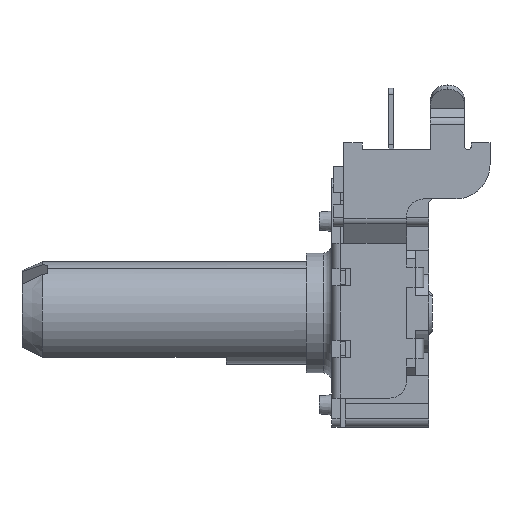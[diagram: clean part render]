
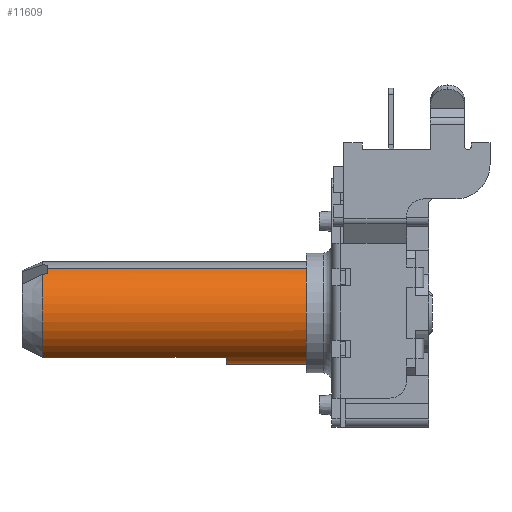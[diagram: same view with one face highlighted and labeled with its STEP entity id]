
A CAD part, left-side view. The second image highlights one B-rep face of the part: STEP entity #11609.
In plain terms, the highlighted cylindrical face has radius 3 mm (diameter 6 mm), a partial arc.
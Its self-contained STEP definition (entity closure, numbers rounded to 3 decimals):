
#202 = ORIENTED_EDGE ( 'NONE', *, *, #12828, .F. ) ;
#394 = CARTESIAN_POINT ( 'NONE',  ( 0., 2.5, -3. ) ) ;
#443 = CARTESIAN_POINT ( 'NONE',  ( 0., 20.1, 3. ) ) ;
#472 = LINE ( 'NONE', #10326, #9423 ) ;
#497 = EDGE_CURVE ( 'NONE', #10487, #8696, #6049, .T. ) ;
#498 = DIRECTION ( 'NONE',  ( 0., 1., 0. ) ) ;
#767 = CARTESIAN_POINT ( 'NONE',  ( 0., 19.8, -3. ) ) ;
#1163 = CIRCLE ( 'NONE', #10137, 3. ) ;
#1617 = EDGE_CURVE ( 'NONE', #6973, #5762, #472, .T. ) ;
#1688 = VECTOR ( 'NONE', #12697, 1000. ) ;
#1877 = LINE ( 'NONE', #443, #1688 ) ;
#2296 = CARTESIAN_POINT ( 'NONE',  ( 0.55, 20.1, -2.949 ) ) ;
#2437 = DIRECTION ( 'NONE',  ( 0., -1., 0. ) ) ;
#2491 = DIRECTION ( 'NONE',  ( 0., 0., -1. ) ) ;
#2692 = CARTESIAN_POINT ( 'NONE',  ( 0.5, 19.8, -2.958 ) ) ;
#3040 = CARTESIAN_POINT ( 'NONE',  ( 0., 20.1, 0. ) ) ;
#3432 = EDGE_CURVE ( 'NONE', #6537, #8696, #1163, .T. ) ;
#3558 = ORIENTED_EDGE ( 'NONE', *, *, #497, .F. ) ;
#4029 = AXIS2_PLACEMENT_3D ( 'NONE', #5467, #498, #11638 ) ;
#4149 = DIRECTION ( 'NONE',  ( 0., 1., 0. ) ) ;
#4308 = DIRECTION ( 'NONE',  ( 0., 1., 0. ) ) ;
#4378 = CARTESIAN_POINT ( 'NONE',  ( 0., 19.8, 0. ) ) ;
#4663 = CARTESIAN_POINT ( 'NONE',  ( 0.5, 19.8, -2.958 ) ) ;
#4695 = DIRECTION ( 'NONE',  ( 0., 1., 0. ) ) ;
#5401 = EDGE_CURVE ( 'NONE', #13343, #7348, #6550, .T. ) ;
#5467 = CARTESIAN_POINT ( 'NONE',  ( 0., 9.3, 0. ) ) ;
#5568 = EDGE_CURVE ( 'NONE', #9754, #6537, #1877, .T. ) ;
#5762 = VERTEX_POINT ( 'NONE', #15475 ) ;
#6049 = LINE ( 'NONE', #9659, #7347 ) ;
#6516 = CARTESIAN_POINT ( 'NONE',  ( 2.598, 9.3, 1.5 ) ) ;
#6537 = VERTEX_POINT ( 'NONE', #9594 ) ;
#6550 =( BOUNDED_CURVE ( )  B_SPLINE_CURVE ( 3, ( #10151, #9997, #13662, #2692 ),
 .UNSPECIFIED., .F., .F. ) 
 B_SPLINE_CURVE_WITH_KNOTS ( ( 4, 4 ),
 ( 4.528, 4.545 ),
 .UNSPECIFIED. ) 
 CURVE ( )  GEOMETRIC_REPRESENTATION_ITEM ( )  RATIONAL_B_SPLINE_CURVE ( ( 1., 1., 1., 1. ) ) 
 REPRESENTATION_ITEM ( '' )  );
#6973 = VERTEX_POINT ( 'NONE', #6516 ) ;
#7183 = EDGE_CURVE ( 'NONE', #9754, #6973, #15014, .T. ) ;
#7347 = VECTOR ( 'NONE', #2437, 1000. ) ;
#7348 = VERTEX_POINT ( 'NONE', #4663 ) ;
#8285 = AXIS2_PLACEMENT_3D ( 'NONE', #13224, #9782, #2491 ) ;
#8696 = VERTEX_POINT ( 'NONE', #394 ) ;
#8771 = CIRCLE ( 'NONE', #11335, 3. ) ;
#9423 = VECTOR ( 'NONE', #4149, 1000. ) ;
#9594 = CARTESIAN_POINT ( 'NONE',  ( 0., 2.5, 3. ) ) ;
#9659 = CARTESIAN_POINT ( 'NONE',  ( 0., 20.1, -3. ) ) ;
#9721 = ORIENTED_EDGE ( 'NONE', *, *, #5568, .T. ) ;
#9754 = VERTEX_POINT ( 'NONE', #11804 ) ;
#9782 = DIRECTION ( 'NONE',  ( 0., -1., 0. ) ) ;
#9997 = CARTESIAN_POINT ( 'NONE',  ( 0.533, 20., -2.952 ) ) ;
#10051 = ORIENTED_EDGE ( 'NONE', *, *, #7183, .F. ) ;
#10137 = AXIS2_PLACEMENT_3D ( 'NONE', #15728, #4695, #14610 ) ;
#10151 = CARTESIAN_POINT ( 'NONE',  ( 0.55, 20.1, -2.949 ) ) ;
#10253 = DIRECTION ( 'NONE',  ( 0., 0., 1. ) ) ;
#10326 = CARTESIAN_POINT ( 'NONE',  ( 2.598, 9.3, 1.5 ) ) ;
#10345 = EDGE_CURVE ( 'NONE', #7348, #10487, #8771, .T. ) ;
#10408 = ORIENTED_EDGE ( 'NONE', *, *, #3432, .T. ) ;
#10487 = VERTEX_POINT ( 'NONE', #767 ) ;
#10843 = CIRCLE ( 'NONE', #15156, 3. ) ;
#10997 = FACE_OUTER_BOUND ( 'NONE', #14569, .T. ) ;
#11066 = CYLINDRICAL_SURFACE ( 'NONE', #8285, 3. ) ;
#11187 = ORIENTED_EDGE ( 'NONE', *, *, #10345, .F. ) ;
#11335 = AXIS2_PLACEMENT_3D ( 'NONE', #4378, #4308, #11519 ) ;
#11519 = DIRECTION ( 'NONE',  ( 0., 0., -1. ) ) ;
#11609 = ADVANCED_FACE ( 'NONE', ( #10997 ), #11066, .T. ) ;
#11638 = DIRECTION ( 'NONE',  ( 0., 0., 1. ) ) ;
#11804 = CARTESIAN_POINT ( 'NONE',  ( 0., 9.3, 3. ) ) ;
#12059 = ORIENTED_EDGE ( 'NONE', *, *, #1617, .F. ) ;
#12381 = ORIENTED_EDGE ( 'NONE', *, *, #5401, .F. ) ;
#12697 = DIRECTION ( 'NONE',  ( 0., -1., 0. ) ) ;
#12828 = EDGE_CURVE ( 'NONE', #5762, #13343, #10843, .T. ) ;
#13224 = CARTESIAN_POINT ( 'NONE',  ( 0., 20.1, 0. ) ) ;
#13343 = VERTEX_POINT ( 'NONE', #2296 ) ;
#13662 = CARTESIAN_POINT ( 'NONE',  ( 0.517, 19.9, -2.955 ) ) ;
#14011 = DIRECTION ( 'NONE',  ( 0., 1., 0. ) ) ;
#14569 = EDGE_LOOP ( 'NONE', ( #10051, #9721, #10408, #3558, #11187, #12381, #202, #12059 ) ) ;
#14610 = DIRECTION ( 'NONE',  ( 0., 0., 1. ) ) ;
#15014 = CIRCLE ( 'NONE', #4029, 3. ) ;
#15156 = AXIS2_PLACEMENT_3D ( 'NONE', #3040, #14011, #10253 ) ;
#15475 = CARTESIAN_POINT ( 'NONE',  ( 2.598, 20.1, 1.5 ) ) ;
#15728 = CARTESIAN_POINT ( 'NONE',  ( 0., 2.5, 0. ) ) ;
